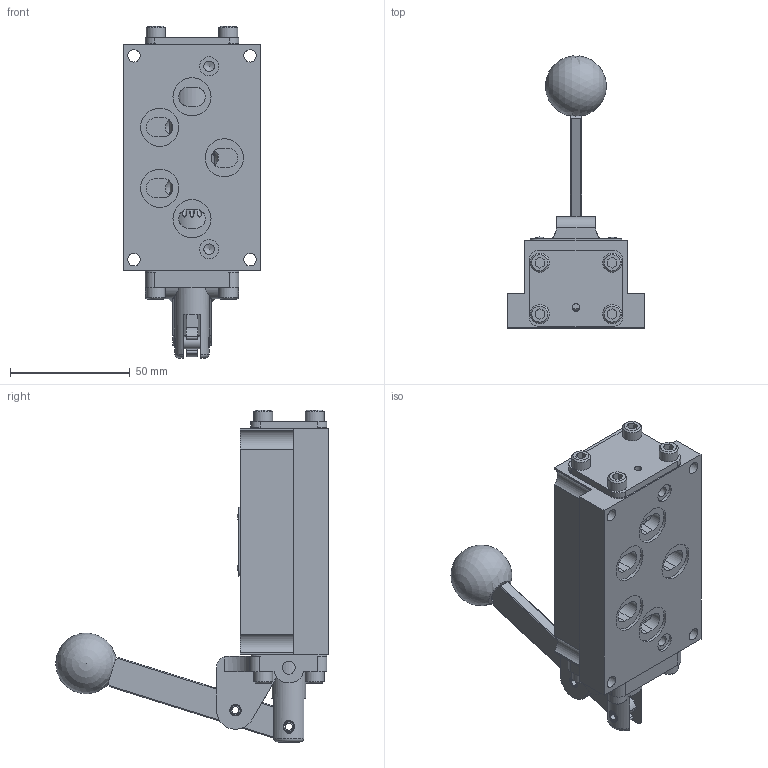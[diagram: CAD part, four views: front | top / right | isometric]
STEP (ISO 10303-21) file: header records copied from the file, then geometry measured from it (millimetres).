
FILE_DESCRIPTION(/* description */ (''),/* implementation_level */ '2;1');
FILE_NAME(/* name */ 'D:\Engineering\Product\valves\Assembly\lever\HO\stp\HO3PHJ.stp',/* time_stamp */ '2022-06-02T09:21:18-04:00',/* author */ ('RMcKenna'),/* organization */ (''),/* preprocessor_version */ 'ST-DEVELOPER v18.1',/* originating_system */ 'Autodesk Inventor 2021',/* authorisation */ '');
FILE_SCHEMA (('AUTOMOTIVE_DESIGN { 1 0 10303 214 3 1 1 }'));
Length unit declared in the file: centimetre
Products named in the file (1): Part18
Bounding box: 57.15 x 113.4 x 138.33 mm (x, y, z)
Volume: 175915.6 mm3; surface area: 58639 mm2
Topology: 1 solids, 30 shells, 960 faces, 2304 edges, 1464 vertices
Faces by surface type: plane 387, cone 227, cylinder 218, torus 89, bspline 36, sphere 3
Full cylindrical faces by diameter (mm): 2.07 x2, 2.261 x2, 2.778 x2, 3.175 x3, 3.683 x8, 3.861 x2, 4.366 x2, 4.369 x3, 4.75 x2, 4.763 x2, 4.826 x8, 4.978 x4, 5.055 x1, 5.156 x8, 5.159 x4, 5.41 x1, 7.798 x1, 7.925 x2, 7.938 x8, 8.153 x1, 9.922 x1, 11.113 x1, 11.303 x2, 14.275 x1, 14.986 x1, 15.875 x5, 18.618 x2, 18.745 x12, 19.177 x2, 23.825 x7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
Entity records: 31736 total; most frequent: CARTESIAN_POINT 8438, DIRECTION 4649, ORIENTED_EDGE 4566, EDGE_CURVE 2283, AXIS2_PLACEMENT_3D 1796, VERTEX_POINT 1464, EDGE_LOOP 1105, LINE 1057
